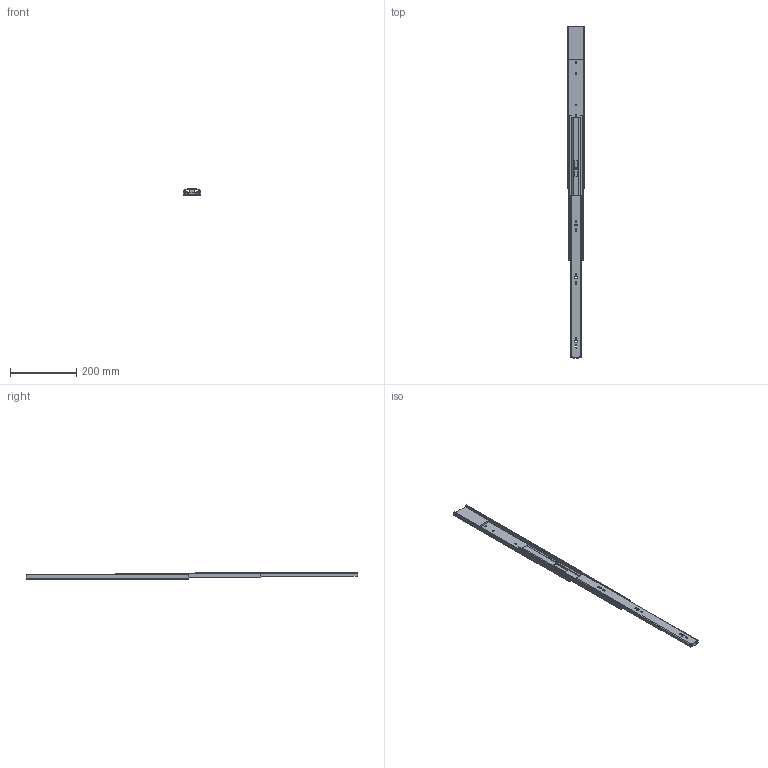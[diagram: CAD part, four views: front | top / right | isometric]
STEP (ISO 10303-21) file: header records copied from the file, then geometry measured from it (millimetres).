
FILE_DESCRIPTION((''),'2;1');
FILE_NAME('78A01_500_OPEN_ASM','2020-09-01T15:17:32',('T170334'),(''),'CREO PARAMETRIC BY PTC INC, 2018260','CREO PARAMETRIC BY PTC INC, 2018260','');
FILE_SCHEMA(('CONFIG_CONTROL_DESIGN'));
Length unit declared in the file: millimetre
Products named in the file (5): OUT_500; MID_500; IN_500; MECHANISM_O; 78A01_500_OPEN_ASM
Assembly tree (4 placements, depth 2):
  78A01_500_OPEN_ASM
    OUT_500
    MID_500
    IN_500
    MECHANISM_O
Bounding box: 53.32 x 1005 x 18.84 mm (x, y, z)
Volume: 190931.1 mm3; surface area: 194476.6 mm2
Topology: 4 solids, 4 shells, 162 faces, 458 edges, 304 vertices
Faces by surface type: cylinder 82, plane 80
Entity records: 5511 total; most frequent: CARTESIAN_POINT 973, DIRECTION 948, ORIENTED_EDGE 916, EDGE_CURVE 458, AXIS2_PLACEMENT_3D 327, VERTEX_POINT 304, VECTOR 294, LINE 294
